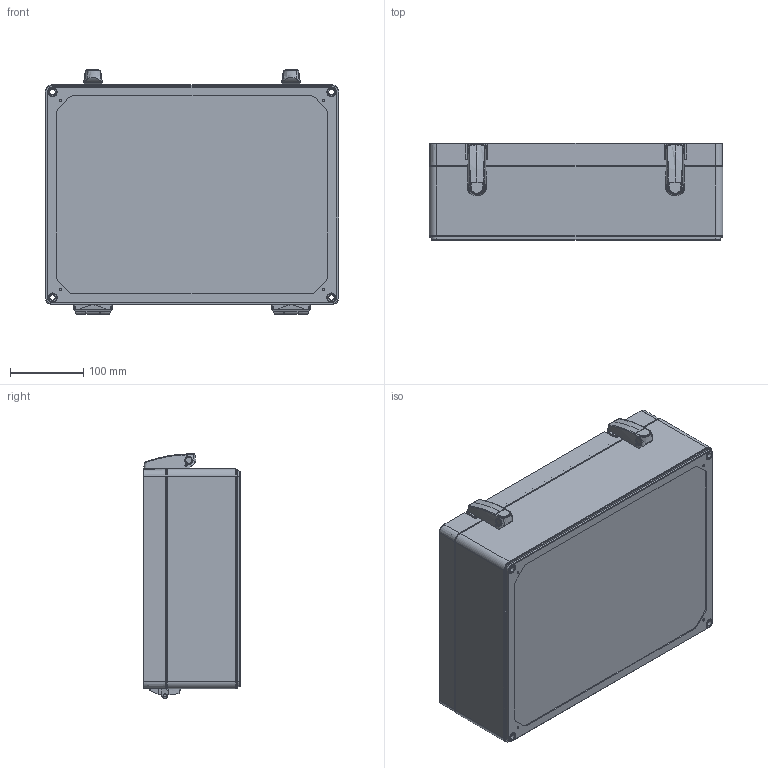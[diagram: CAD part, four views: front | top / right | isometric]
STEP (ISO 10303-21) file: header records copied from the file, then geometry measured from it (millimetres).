
FILE_DESCRIPTION (( 'STEP AP214' ), '1' );
FILE_NAME ('WPCP304013T.STEP', '2024-12-12T22:47:44', ( '' ), ( '' ), 'SwSTEP 2.0', 'SolidWorks 2024', '' );
FILE_SCHEMA (( 'AUTOMOTIVE_DESIGN' ));
Length unit declared in the file: millimetre
Products named in the file (1): WPCP304013T
Bounding box: 400 x 132 x 333.74 mm (x, y, z)
Volume: 2096372.6 mm3; surface area: 909118.2 mm2
Topology: 14 solids, 20 shells, 1190 faces, 2935 edges, 1840 vertices
Faces by surface type: plane 442, cylinder 314, cone 284, torus 108, bspline 34, sphere 8
Entity records: 43001 total; most frequent: CARTESIAN_POINT 14814, DIRECTION 5945, ORIENTED_EDGE 5838, EDGE_CURVE 2919, AXIS2_PLACEMENT_3D 2245, VERTEX_POINT 1840, LINE 1455, VECTOR 1455
